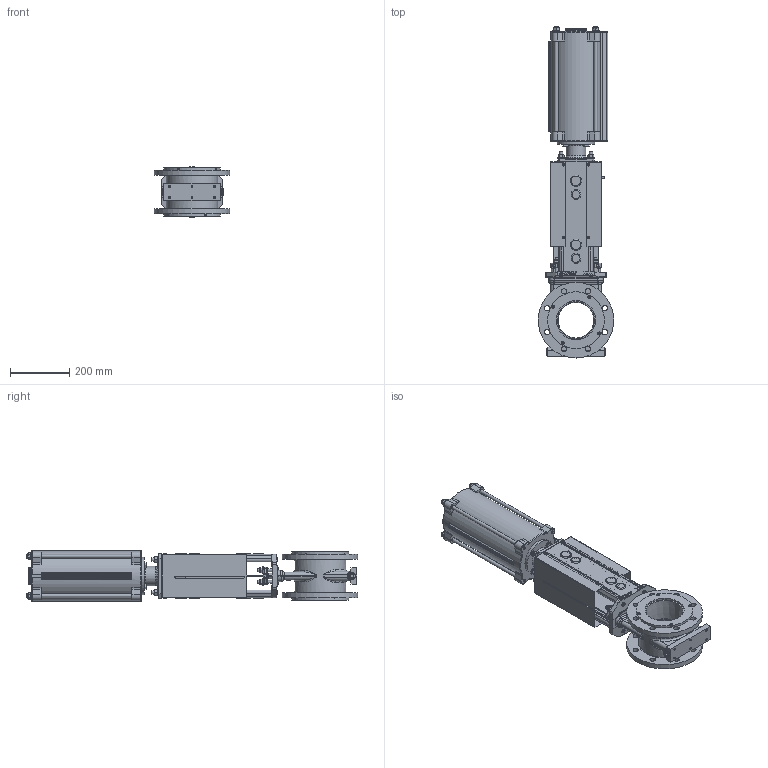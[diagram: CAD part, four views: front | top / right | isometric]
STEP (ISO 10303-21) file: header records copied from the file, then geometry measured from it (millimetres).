
FILE_DESCRIPTION(/* description */ (''),/* implementation_level */ '2;1');
FILE_NAME(/* name */ 'F:\Emir\3D-block special\SLV\SLF-DN125-PN10-FRSC160-215+LDR.stp',/* time_stamp */ '2018-10-15T11:55:33+02:00',/* author */ ('emimus'),/* organization */ (''),/* preprocessor_version */ 'ST-DEVELOPER v17.2',/* originating_system */ 'Autodesk Inventor 2019',/* authorisation */ '');
FILE_SCHEMA (('CONFIG_CONTROL_DESIGN'));
Products named in the file (1): SLF-DN125-PN10-FRSC160-215+LDR
Bounding box: 254 x 1116.5 x 170 mm (x, y, z)
Volume: 7820135.6 mm3; surface area: 2178830.5 mm2
Topology: 1 solids, 1 shells, 2901 faces, 7626 edges, 4877 vertices
Faces by surface type: plane 1225, cylinder 612, bspline 497, cone 280, torus 223, sphere 64
Full cylindrical faces by diameter (mm): 4 x6, 4.134 x4, 4.2 x16, 4.5 x4, 4.917 x4, 6 x1, 6.647 x6, 8 x2, 8.376 x2, 8.5 x8, 8.88 x1, 9.5 x4, 10 x31, 11.445 x2, 12 x30, 13 x17, 14.63 x4, 15 x4, 16 x2, 17.7 x1, 18 x20, 18.631 x2, 19 x4, 20 x1, 20.5 x1, 23 x4, 24 x16, 25.8 x2, 28 x4, 30 x1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
Entity records: 103466 total; most frequent: CARTESIAN_POINT 34161, ORIENTED_EDGE 15134, DIRECTION 13813, EDGE_CURVE 7567, AXIS2_PLACEMENT_3D 5362, VERTEX_POINT 4877, EDGE_LOOP 3252, LINE 3089
